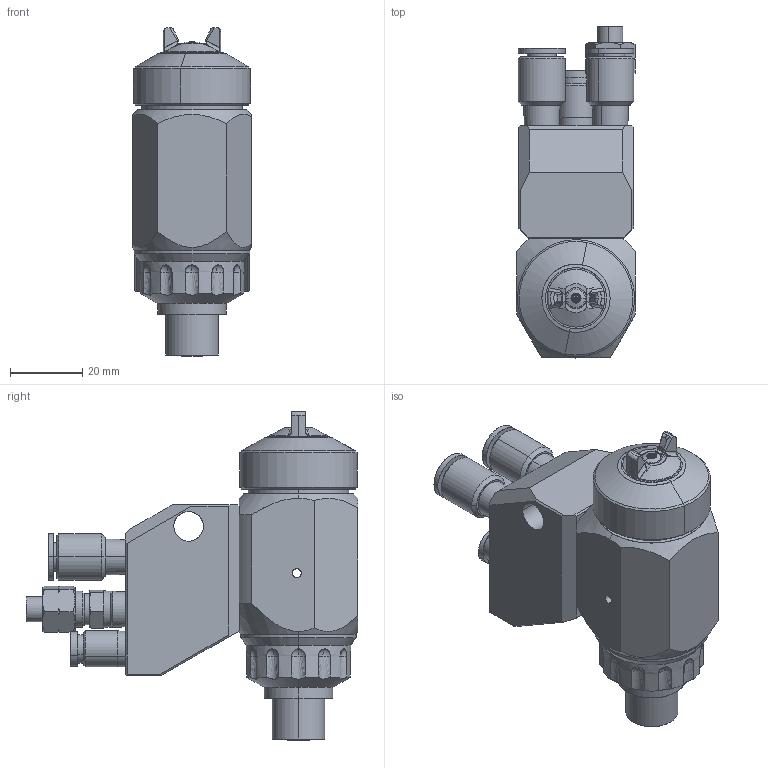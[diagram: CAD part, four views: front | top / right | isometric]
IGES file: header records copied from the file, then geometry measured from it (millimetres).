
Start section: SolidWorks IGES file using analytic representation for surfaces
Bounding box: 33 x 92.09 x 91.21 mm (x, y, z)
Surface area: 24638.4 mm2 (no closed solid volume)
Topology: 0 solids, 0 shells, 338 faces, 5592 edges, 5592 vertices
Faces by surface type: revolution 197, bspline 141
